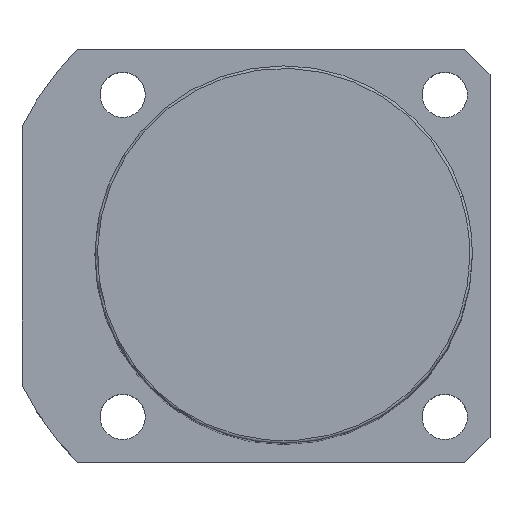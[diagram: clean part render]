
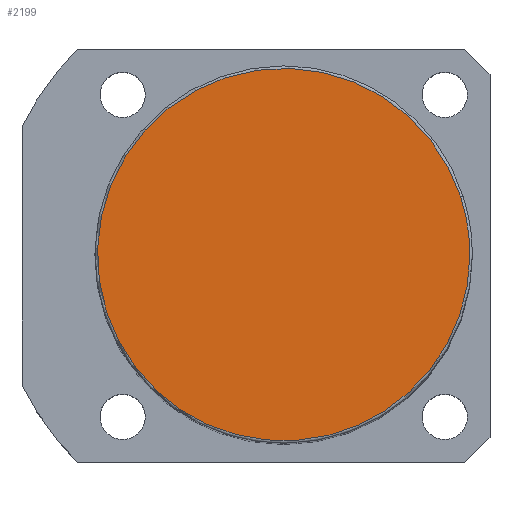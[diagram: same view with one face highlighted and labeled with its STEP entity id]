
A CAD part, top view. The second image highlights one B-rep face of the part: STEP entity #2199.
In plain terms, the highlighted planar face has unit normal (0, 0, 1).
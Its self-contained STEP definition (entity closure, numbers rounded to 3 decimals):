
#2165=CARTESIAN_POINT('',(37.0,0.0,163.0));
#2166=VERTEX_POINT('',#2165);
#2167=CARTESIAN_POINT('',(35.189,11.434,163.0));
#2168=VERTEX_POINT('',#2167);
#2169=CARTESIAN_POINT('',(0.0,0.0,163.0));
#2170=DIRECTION('',(0.0,0.0,1.0));
#2171=DIRECTION('',(1.0,0.0,0.0));
#2172=AXIS2_PLACEMENT_3D('',#2169,#2170,#2171);
#2173=CIRCLE('',#2172,37.0);
#2174=EDGE_CURVE('no 2024',#2166,#2168,#2173,.T.);
#2175=ORIENTED_EDGE('',*,*,#2174,.T.);
#2176=CARTESIAN_POINT('',(-35.189,-11.434,163.0));
#2177=VERTEX_POINT('',#2176);
#2178=CARTESIAN_POINT('',(0.0,0.0,163.0));
#2179=DIRECTION('',(0.0,0.0,1.0));
#2180=DIRECTION('',(1.0,0.0,0.0));
#2181=AXIS2_PLACEMENT_3D('',#2178,#2179,#2180);
#2182=CIRCLE('',#2181,37.0);
#2183=EDGE_CURVE('no 2030',#2168,#2177,#2182,.T.);
#2184=ORIENTED_EDGE('',*,*,#2183,.T.);
#2185=CARTESIAN_POINT('',(0.0,0.0,163.0));
#2186=DIRECTION('',(0.0,0.0,1.0));
#2187=DIRECTION('',(1.0,0.0,0.0));
#2188=AXIS2_PLACEMENT_3D('',#2185,#2186,#2187);
#2189=CIRCLE('',#2188,37.0);
#2190=EDGE_CURVE('no 2034',#2177,#2166,#2189,.T.);
#2191=ORIENTED_EDGE('',*,*,#2190,.T.);
#2192=EDGE_LOOP('',(#2175,#2184,#2191));
#2193=FACE_OUTER_BOUND('',#2192,.T.);
#2194=CARTESIAN_POINT('',(0.0,0.0,163.0));
#2195=DIRECTION('',(0.0,0.0,1.0));
#2196=DIRECTION('',(1.0,0.0,0.0));
#2197=AXIS2_PLACEMENT_3D('',#2194,#2195,#2196);
#2198=PLANE('',#2197);
#2199=ADVANCED_FACE('no 2015',(#2193),#2198,.T.);
